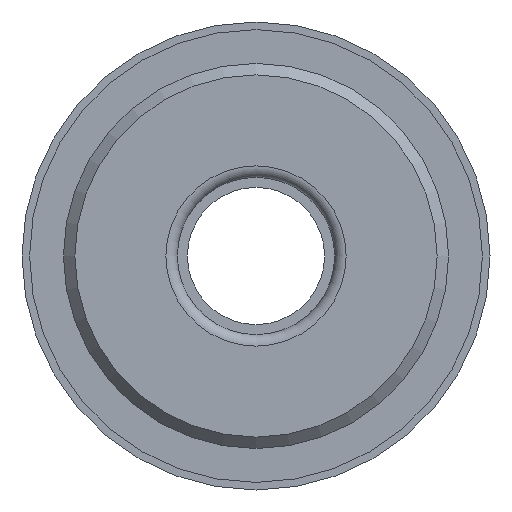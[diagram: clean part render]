
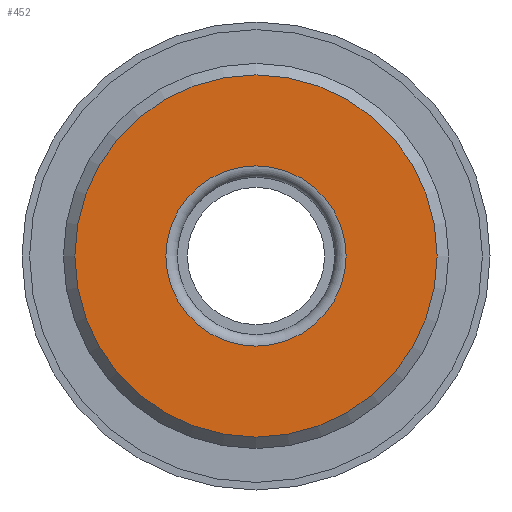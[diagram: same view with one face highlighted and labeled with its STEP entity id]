
A CAD part, left-side view. The second image highlights one B-rep face of the part: STEP entity #452.
In plain terms, the highlighted planar face has unit normal (-1, 0, 0).
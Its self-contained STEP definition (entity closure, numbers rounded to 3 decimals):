
#40=PLANE('',#506);
#58=CIRCLE('',#507,9.042);
#59=CIRCLE('',#508,4.5);
#97=ORIENTED_EDGE('',*,*,#215,.F.);
#98=ORIENTED_EDGE('',*,*,#216,.F.);
#215=EDGE_CURVE('',#270,#270,#58,.T.);
#216=EDGE_CURVE('',#271,#271,#59,.F.);
#270=VERTEX_POINT('',#763);
#271=VERTEX_POINT('',#765);
#329=EDGE_LOOP('',(#97));
#330=EDGE_LOOP('',(#98));
#383=FACE_BOUND('',#329,.T.);
#384=FACE_BOUND('',#330,.T.);
#452=ADVANCED_FACE('',(#383,#384),#40,.F.);
#506=AXIS2_PLACEMENT_3D('',#761,#583,#584);
#507=AXIS2_PLACEMENT_3D('',#762,#585,#586);
#508=AXIS2_PLACEMENT_3D('',#764,#587,#588);
#583=DIRECTION('',(1.,0.,0.));
#584=DIRECTION('',(0.,0.,-1.));
#585=DIRECTION('',(1.,0.,0.));
#586=DIRECTION('',(0.,0.,-1.));
#587=DIRECTION('',(1.,0.,0.));
#588=DIRECTION('',(0.,0.,-1.));
#761=CARTESIAN_POINT('',(-0.572,0.,0.));
#762=CARTESIAN_POINT('',(-0.572,0.,0.));
#763=CARTESIAN_POINT('',(-0.572,0.,-9.042));
#764=CARTESIAN_POINT('',(-0.572,0.,0.));
#765=CARTESIAN_POINT('',(-0.572,0.,-4.5));
